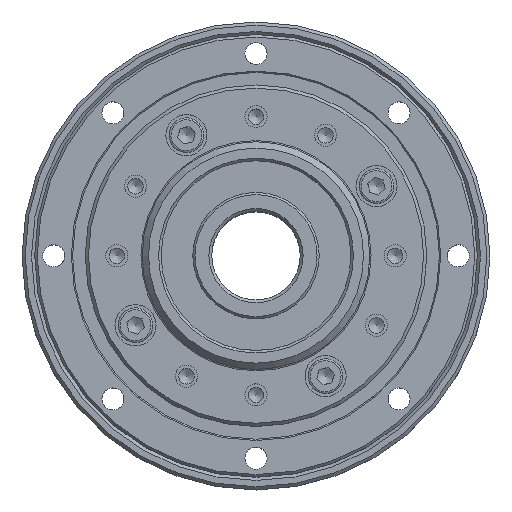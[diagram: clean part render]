
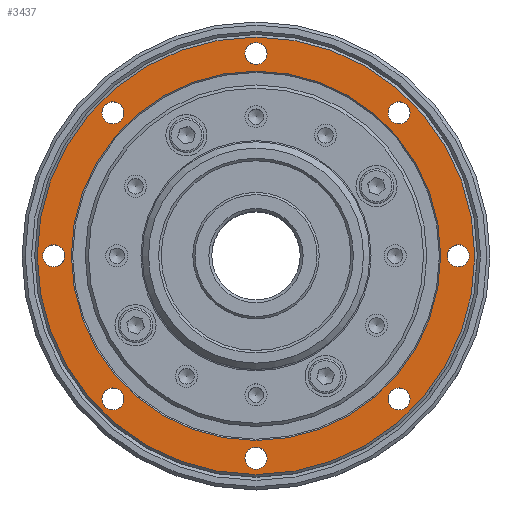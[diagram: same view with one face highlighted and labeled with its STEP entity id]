
A CAD part, top view. The second image highlights one B-rep face of the part: STEP entity #3437.
In plain terms, the highlighted planar face has unit normal (0, 0, 1).
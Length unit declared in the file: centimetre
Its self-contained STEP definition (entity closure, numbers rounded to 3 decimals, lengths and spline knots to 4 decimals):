
#480=FACE_BOUND($,#1287,.T.);
#481=FACE_BOUND($,#1288,.T.);
#482=FACE_BOUND($,#1289,.T.);
#483=FACE_BOUND($,#1290,.T.);
#484=FACE_BOUND($,#1291,.T.);
#485=FACE_BOUND($,#1292,.T.);
#486=FACE_BOUND($,#1293,.T.);
#487=FACE_BOUND($,#1294,.T.);
#488=FACE_BOUND($,#1295,.T.);
#489=FACE_BOUND($,#1296,.T.);
#1287=EDGE_LOOP($,(#2818));
#1288=EDGE_LOOP($,(#2819));
#1289=EDGE_LOOP($,(#2820));
#1290=EDGE_LOOP($,(#2821));
#1291=EDGE_LOOP($,(#2822));
#1292=EDGE_LOOP($,(#2823));
#1293=EDGE_LOOP($,(#2824));
#1294=EDGE_LOOP($,(#2825));
#1295=EDGE_LOOP($,(#2826));
#1296=EDGE_LOOP($,(#2827));
#1681=CIRCLE($,#3837,0.175);
#1683=CIRCLE($,#3840,0.175);
#1685=CIRCLE($,#3843,0.175);
#1687=CIRCLE($,#3846,0.175);
#1689=CIRCLE($,#3849,0.175);
#1691=CIRCLE($,#3852,0.175);
#1693=CIRCLE($,#3855,0.175);
#1695=CIRCLE($,#3858,0.175);
#1698=CIRCLE($,#3862,2.92);
#1699=CIRCLE($,#3864,3.46);
#1962=VERTEX_POINT($,#5926);
#1964=VERTEX_POINT($,#5931);
#1966=VERTEX_POINT($,#5936);
#1968=VERTEX_POINT($,#5941);
#1970=VERTEX_POINT($,#5946);
#1972=VERTEX_POINT($,#5951);
#1974=VERTEX_POINT($,#5956);
#1976=VERTEX_POINT($,#5961);
#1979=VERTEX_POINT($,#5968);
#1980=VERTEX_POINT($,#5971);
#2297=EDGE_CURVE($,#1962,#1962,#1681,.T.);
#2299=EDGE_CURVE($,#1964,#1964,#1683,.T.);
#2301=EDGE_CURVE($,#1966,#1966,#1685,.T.);
#2303=EDGE_CURVE($,#1968,#1968,#1687,.T.);
#2305=EDGE_CURVE($,#1970,#1970,#1689,.T.);
#2307=EDGE_CURVE($,#1972,#1972,#1691,.T.);
#2309=EDGE_CURVE($,#1974,#1974,#1693,.T.);
#2311=EDGE_CURVE($,#1976,#1976,#1695,.T.);
#2314=EDGE_CURVE($,#1979,#1979,#1698,.T.);
#2315=EDGE_CURVE($,#1980,#1980,#1699,.T.);
#2818=ORIENTED_EDGE($,*,*,#2314,.F.);
#2819=ORIENTED_EDGE($,*,*,#2311,.T.);
#2820=ORIENTED_EDGE($,*,*,#2309,.T.);
#2821=ORIENTED_EDGE($,*,*,#2307,.T.);
#2822=ORIENTED_EDGE($,*,*,#2305,.T.);
#2823=ORIENTED_EDGE($,*,*,#2303,.T.);
#2824=ORIENTED_EDGE($,*,*,#2301,.T.);
#2825=ORIENTED_EDGE($,*,*,#2299,.T.);
#2826=ORIENTED_EDGE($,*,*,#2297,.T.);
#2827=ORIENTED_EDGE($,*,*,#2315,.F.);
#3247=PLANE($,#3863);
#3437=ADVANCED_FACE($,(#480,#481,#482,#483,#484,#485,#486,#487,#488,#489),
#3247,.T.);
#3837=AXIS2_PLACEMENT_3D($,#5927,#4628,#4629);
#3840=AXIS2_PLACEMENT_3D($,#5932,#4634,#4635);
#3843=AXIS2_PLACEMENT_3D($,#5937,#4640,#4641);
#3846=AXIS2_PLACEMENT_3D($,#5942,#4646,#4647);
#3849=AXIS2_PLACEMENT_3D($,#5947,#4652,#4653);
#3852=AXIS2_PLACEMENT_3D($,#5952,#4658,#4659);
#3855=AXIS2_PLACEMENT_3D($,#5957,#4664,#4665);
#3858=AXIS2_PLACEMENT_3D($,#5962,#4670,#4671);
#3862=AXIS2_PLACEMENT_3D($,#5969,#4678,#4679);
#3863=AXIS2_PLACEMENT_3D($,#5970,#4680,#4681);
#3864=AXIS2_PLACEMENT_3D($,#5972,#4682,#4683);
#4628=DIRECTION('center_axis',(0.,0.,-1.));
#4629=DIRECTION('ref_axis',(0.,1.,0.));
#4634=DIRECTION('center_axis',(0.,0.,-1.));
#4635=DIRECTION('ref_axis',(0.,1.,0.));
#4640=DIRECTION('center_axis',(0.,0.,-1.));
#4641=DIRECTION('ref_axis',(0.,1.,0.));
#4646=DIRECTION('center_axis',(0.,0.,-1.));
#4647=DIRECTION('ref_axis',(0.,1.,0.));
#4652=DIRECTION('center_axis',(0.,0.,-1.));
#4653=DIRECTION('ref_axis',(0.,1.,0.));
#4658=DIRECTION('center_axis',(0.,0.,-1.));
#4659=DIRECTION('ref_axis',(0.,1.,0.));
#4664=DIRECTION('center_axis',(0.,0.,-1.));
#4665=DIRECTION('ref_axis',(0.,1.,0.));
#4670=DIRECTION('center_axis',(0.,0.,-1.));
#4671=DIRECTION('ref_axis',(0.,1.,0.));
#4678=DIRECTION('center_axis',(0.,0.,1.));
#4679=DIRECTION('ref_axis',(-1.,0.,0.));
#4680=DIRECTION('center_axis',(0.,0.,1.));
#4681=DIRECTION('ref_axis',(0.,-1.,0.));
#4682=DIRECTION('center_axis',(0.,0.,-1.));
#4683=DIRECTION('ref_axis',(-1.,0.,0.));
#5926=CARTESIAN_POINT('',(-2.2627,2.0877,1.36));
#5927=CARTESIAN_POINT('Origin',(-2.2627,2.2627,1.36));
#5931=CARTESIAN_POINT('',(-2.2627,-2.4377,1.36));
#5932=CARTESIAN_POINT('Origin',(-2.2627,-2.2627,1.36));
#5936=CARTESIAN_POINT('',(2.2627,-2.4377,1.36));
#5937=CARTESIAN_POINT('Origin',(2.2627,-2.2627,1.36));
#5941=CARTESIAN_POINT('',(2.2627,2.0877,1.36));
#5942=CARTESIAN_POINT('Origin',(2.2627,2.2627,1.36));
#5946=CARTESIAN_POINT('',(0.,3.025,1.36));
#5947=CARTESIAN_POINT('Origin',(0.,3.2,1.36));
#5951=CARTESIAN_POINT('',(3.2,-0.175,1.36));
#5952=CARTESIAN_POINT('Origin',(3.2,0.,1.36));
#5956=CARTESIAN_POINT('',(0.,-3.375,1.36));
#5957=CARTESIAN_POINT('Origin',(0.,-3.2,1.36));
#5961=CARTESIAN_POINT('',(-3.2,-0.175,1.36));
#5962=CARTESIAN_POINT('Origin',(-3.2,0.,1.36));
#5968=CARTESIAN_POINT('',(2.92,0.,1.36));
#5969=CARTESIAN_POINT('Origin',(0.,0.,1.36));
#5970=CARTESIAN_POINT('Origin',(3.5,0.,1.36));
#5971=CARTESIAN_POINT('',(3.46,0.,1.36));
#5972=CARTESIAN_POINT('Origin',(0.,0.,1.36));
